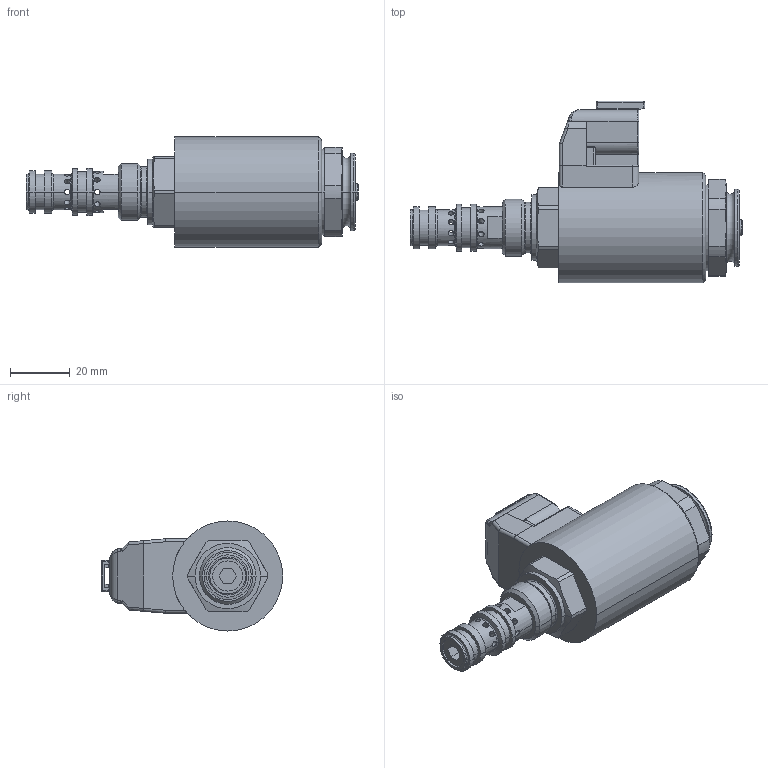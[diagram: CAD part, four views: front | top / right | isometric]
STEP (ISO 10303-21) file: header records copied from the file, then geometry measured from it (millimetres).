
FILE_DESCRIPTION((''),'2;1');
FILE_NAME('SP2P1_A3_H12_47001450_ASM','2025-05-07T09:39:33',('l.soukupova'),(''),'CREO PARAMETRIC BY PTC INC, 2023254','CREO PARAMETRIC BY PTC INC, 2023254','');
FILE_SCHEMA(('AUTOMOTIVE_DESIGN { 1 0 10303 214 1 1 1 1 }'));
Length unit declared in the file: millimetre
Products named in the file (3): 1000454970; C19B_E12_AF0; SP2P1_A3_H12_47001450_ASM
Assembly tree (2 placements, depth 2):
  SP2P1_A3_H12_47001450_ASM
    1000454970
    C19B_E12_AF0
Bounding box: 111.6 x 61 x 37 mm (x, y, z)
Volume: 78522.2 mm3; surface area: 23907.2 mm2
Topology: 2 solids, 2 shells, 335 faces, 810 edges, 482 vertices
Faces by surface type: cylinder 157, plane 116, torus 30, cone 16, bspline 10, sphere 6
Entity records: 18339 total; most frequent: CARTESIAN_POINT 5166, DIRECTION 1630, ORIENTED_EDGE 1620, PRESENTATION_STYLE_ASSIGNMENT 1044, STYLED_ITEM 833, CURVE_STYLE 810, EDGE_CURVE 810, AXIS2_PLACEMENT_3D 608
